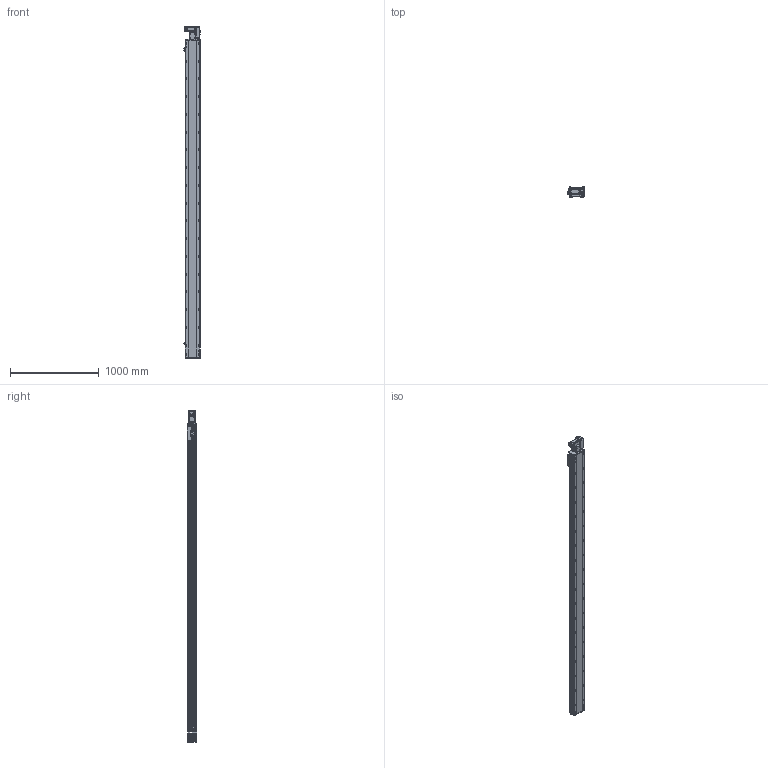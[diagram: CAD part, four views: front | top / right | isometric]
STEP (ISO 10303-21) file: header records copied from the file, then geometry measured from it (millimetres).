
FILE_DESCRIPTION (( 'STEP AP214' ), '1' );
FILE_NAME ('RTB17S-XX-3300-R-M40-C4.STEP', '2025-12-11T08:00:28', ( '' ), ( '' ), 'SwSTEP 2.0', 'SolidWorks 2018', '' );
FILE_SCHEMA (( 'AUTOMOTIVE_DESIGN' ));
Length unit declared in the file: millimetre
Products named in the file (14): 400W侜督萇儂^RTB17S-XX-XX-R-M40-C4; RTB17S-R-々湍釱蚾饜-400W^RTB17S-XX-XX-R-M40-C4; OMRON EE-SX672 传感器^RTB17S-XX-XX-R-M40-C4; RTB17-R-011菁釱^RTB17S-XX-XX-R-M40-C4; RTB17S-L-014-T20--々湍釱^RTB17S-R-々湍釱蚾饜-400W_RTB17S-XX-XX-R-M40-C4; RTB17S-L-004佪裝蹟譫蟀諉釱^RTB17S-XX-XX-R-M40-C4; RTB17S-XX-3300-R-M40-C4; RTB14-L-008-M20--萇儂啣^RTB17S-R-々湍釱蚾饜-400W_RTB17S-XX-XX-R-M40-C4; RTB14-L-017P^RTB17S-R-々湍釱蚾饜-400W_RTB17S-XX-XX-R-M40-C4; RTB14-L-005P--轴承塑胶压盖^RTB17S-R-皮带座装配-400W_RTB17S-XX-XX-R-M40-C4; RTB17S-L-001耜醱啣^RTB17S-XX-XX-R-M40-C4; RTB17S-L-007奻裔^RTB17S-XX-XX-R-M40-C4; RTH13-BL-012覜茼え俋离^RTB17S-XX-XX-R-M40-C4; RTB14-L-018P^RTB17S-R-々湍釱蚾饜-400W_RTB17S-XX-XX-R-M40-C4
Assembly tree (16 placements, depth 3):
  RTB17S-XX-3300-R-M40-C4
    RTB17-R-011菁釱^RTB17S-XX-XX-R-M40-C4
    RTB17S-L-007奻裔^RTB17S-XX-XX-R-M40-C4
    OMRON EE-SX672 传感器^RTB17S-XX-XX-R-M40-C4  x3
    RTB17S-L-001耜醱啣^RTB17S-XX-XX-R-M40-C4
    400W侜督萇儂^RTB17S-XX-XX-R-M40-C4
    RTB17S-L-004佪裝蹟譫蟀諉釱^RTB17S-XX-XX-R-M40-C4
    RTH13-BL-012覜茼え俋离^RTB17S-XX-XX-R-M40-C4
    RTB17S-R-々湍釱蚾饜-400W^RTB17S-XX-XX-R-M40-C4
      RTB17S-L-014-T20--々湍釱^RTB17S-R-々湍釱蚾饜-400W_RTB17S-XX-XX-R-M40-C4
      RTB14-L-005P--轴承塑胶压盖^RTB17S-R-皮带座装配-400W_RTB17S-XX-XX-R-M40-C4
      RTB14-L-008-M20--萇儂啣^RTB17S-R-々湍釱蚾饜-400W_RTB17S-XX-XX-R-M40-C4
      RTB14-L-017P^RTB17S-R-々湍釱蚾饜-400W_RTB17S-XX-XX-R-M40-C4  x2
      RTB14-L-018P^RTB17S-R-々湍釱蚾饜-400W_RTB17S-XX-XX-R-M40-C4
Bounding box: 183.5 x 108 x 3741 mm (x, y, z)
Volume: 31128025.1 mm3; surface area: 3544334.3 mm2
Topology: 15 solids, 15 shells, 2397 faces, 6735 edges, 4401 vertices
Faces by surface type: plane 1092, cylinder 857, bspline 301, cone 139, torus 8
Entity records: 71849 total; most frequent: CARTESIAN_POINT 20540, ORIENTED_EDGE 10314, DIRECTION 9476, EDGE_CURVE 5157, VERTEX_POINT 3389, AXIS2_PLACEMENT_3D 3319, LINE 2838, VECTOR 2838
